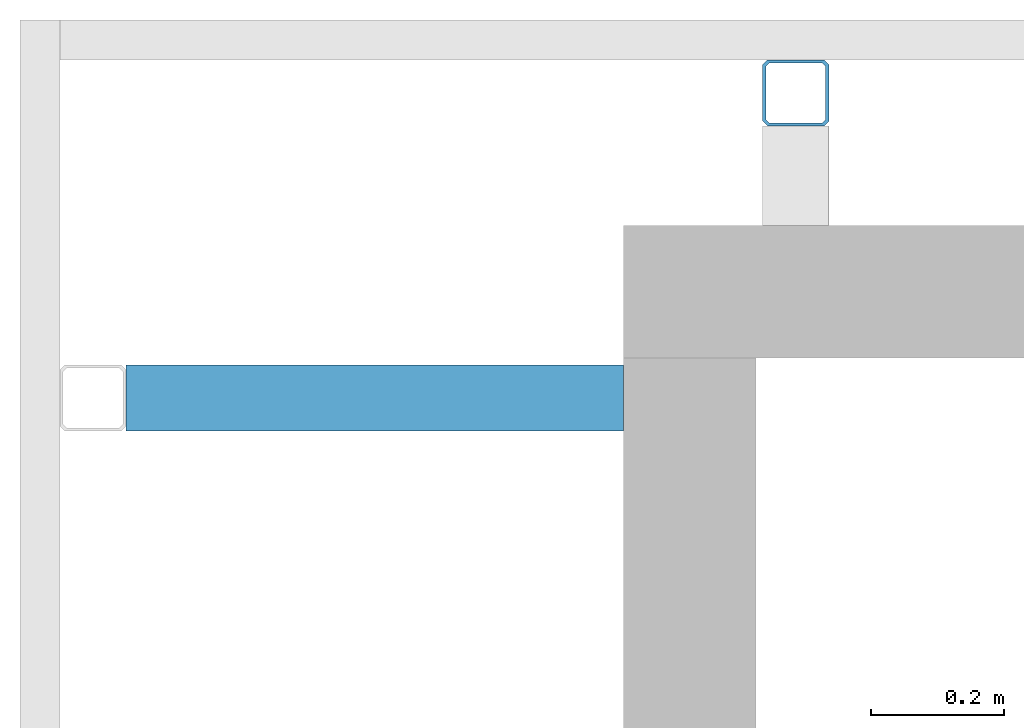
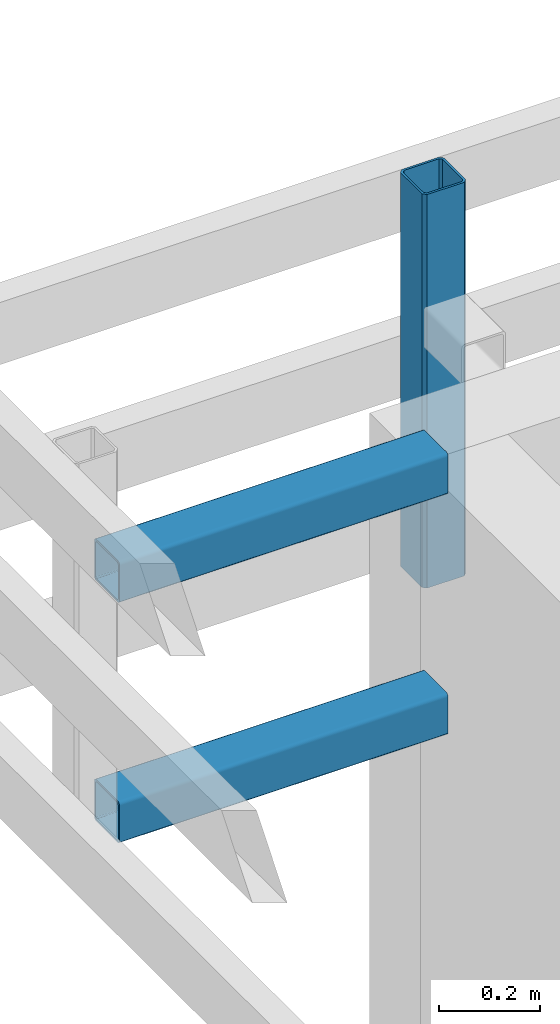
# One storey, part 14 of 42: 3 members.
"""IFC4 building model written with IfcOpenShell, lengths in metres."""

from ifc_helpers import new_model, entity, si_unit, converted_unit, derived_unit, frame, origin, place, context, subcontext, project, spatial, faceted_brep, material, element, save


model = new_model("IFC4")

# Units and contexts
model_context = context("Model", 3, precision=1e-05, world=origin())
plan_context = context("Plan", 2, precision=1e-05, world=origin())
body_context = subcontext(model_context, "Body", "Model", "MODEL_VIEW")
ifc_project = project(units=[si_unit("LENGTHUNIT", "METRE"), si_unit("AREAUNIT", "SQUARE_METRE"), si_unit("VOLUMEUNIT", "CUBIC_METRE"), si_unit("MASSUNIT", "GRAM", prefix="KILO"), converted_unit("PLANEANGLEUNIT", "DEGREE", entity("IfcPlaneAngleMeasure", 0.0174532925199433), si_unit("PLANEANGLEUNIT", "RADIAN"), dimensions=[0, 0, 0, 0, 0, 0, 0]), derived_unit("THERMALTRANSMITTANCEUNIT", [(si_unit("POWERUNIT", "WATT"), 1), (si_unit("THERMODYNAMICTEMPERATUREUNIT", "KELVIN"), -1), (si_unit("LENGTHUNIT", "METRE"), -2)]), derived_unit("VOLUMETRICFLOWRATEUNIT", [(si_unit("LENGTHUNIT", "METRE"), 3), (converted_unit("TIMEUNIT", "hour", entity("IfcTimeMeasure", 3600.0), si_unit("TIMEUNIT", "SECOND"), dimensions=[0, 0, 1, 0, 0, 0, 0]), -1), (si_unit("LENGTHUNIT", "METRE"), -1)])], contexts=[model_context, plan_context])

# Site, building, storey
site_placement = place(None, origin())
site = spatial("IfcSite", under=ifc_project, at=site_placement, Name="Site", CompositionType="ELEMENT")
building_placement = place(site_placement, origin())
building = spatial("IfcBuilding", under=site, at=building_placement, Name="Admin", CompositionType="ELEMENT")
storey_placement = place(building_placement, frame((0.0, 0.0, 6.61)))
storey = spatial("IfcBuildingStorey", under=building, at=storey_placement, Name="02-Etage2", CompositionType="ELEMENT", Elevation=6.61)

# Members
ifc_material_1 = material(Name="S235")
member_1_placement = place(storey_placement, frame((24.2098005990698, 22.4994493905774, 2.28)))
element("IfcMember", 1, at=member_1_placement, inside=storey, material=ifc_material_1, Name="Bandeau R+2", context=body_context, shape_type="Brep", body=[
    faceted_brep([(0.09, 0.005, 0.0), (0.09, 0.005, 0.95), (0.01, 0.005, 0.95), (0.01, 0.005, 0.0), (0.095, 0.01, 0.0), (0.095, 0.01, 0.95), (0.095, 0.09, 0.0), (0.095, 0.09, 0.95), (0.09, 0.095, 0.0), (0.09, 0.095, 0.95), (0.01, 0.095, 0.0), (0.01, 0.095, 0.95), (0.005, 0.09, 0.0), (0.005, 0.09, 0.95), (0.005, 0.01, 0.0), (0.005, 0.01, 0.95), (0.0, 0.0075, 0.0), (0.0, 0.0075, 0.95), (0.0075, 0.0, 0.95), (0.0075, 0.0, 0.0), (0.0, 0.0925, 0.0), (0.0, 0.0925, 0.95), (0.0075, 0.1, 0.0), (0.0075, 0.1, 0.95), (0.0925, 0.1, 0.0), (0.0925, 0.1, 0.95), (0.1, 0.0925, 0.0), (0.1, 0.0925, 0.95), (0.1, 0.0075, 0.0), (0.1, 0.0075, 0.95), (0.0925, 0.0, 0.0), (0.0925, 0.0, 0.95)], [[[0, 1, 2, 3]], [[4, 5, 1, 0]], [[6, 7, 5, 4]], [[8, 9, 7, 6]], [[10, 11, 9, 8]], [[12, 13, 11, 10]], [[14, 15, 13, 12]], [[3, 2, 15, 14]], [[16, 17, 18, 19]], [[20, 21, 17, 16]], [[22, 23, 21, 20]], [[24, 25, 23, 22]], [[26, 27, 25, 24]], [[28, 29, 27, 26]], [[30, 31, 29, 28]], [[19, 18, 31, 30]], [[18, 17, 21, 23, 25, 27, 29, 31], [2, 1, 5, 7, 9, 11, 13, 15]], [[19, 30, 28, 26, 24, 22, 20, 16], [3, 14, 12, 10, 8, 6, 4, 0]]], orient=[[False], [False], [False], [False], [False], [False], [False], [False], [False], [False], [False], [False], [False], [False], [False], [False], [False, False], [False, False]]),
])
ifc_material_2 = material(Name="S235")
member_2_placement = place(storey_placement, frame((23.2498003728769, 22.0394493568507, 2.86)))
element("IfcMember", 2, at=member_2_placement, inside=storey, material=ifc_material_2, Name="Bandeau R+2", context=body_context, shape_type="Brep", body=[
    faceted_brep([(4.27205304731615e-09, 0.005, 0.09), (4.27205304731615e-09, 0.005, 0.01), (0.750000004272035, 0.00500003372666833, 0.01), (0.750000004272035, 0.00500003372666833, 0.09), (4.26863698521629e-09, 0.00507596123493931, 0.0908682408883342), (0.750000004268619, 0.00507599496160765, 0.0908682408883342), (4.25849430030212e-09, 0.00530153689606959, 0.0917101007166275), (0.750000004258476, 0.00530157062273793, 0.0917101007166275), (4.24193058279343e-09, 0.00566987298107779, 0.0925), (0.750000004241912, 0.00566990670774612, 0.0925), (4.21945151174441e-09, 0.0061697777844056, 0.0932139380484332), (0.750000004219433, 0.00616981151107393, 0.0932139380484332), (4.19173738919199e-09, 0.00678606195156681, 0.0938302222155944), (0.750000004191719, 0.00678609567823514, 0.0938302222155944), (4.1596322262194e-09, 0.0075, 0.0943301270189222), (0.750000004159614, 0.00750003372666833, 0.0943301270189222), (4.12411100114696e-09, 0.00828989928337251, 0.0946984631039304), (0.750000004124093, 0.00828993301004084, 0.0946984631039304), (4.08625419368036e-09, 0.009131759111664, 0.0949240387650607), (0.750000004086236, 0.00913179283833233, 0.0949240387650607), (4.04720776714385e-09, 0.01, 0.095), (0.75000000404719, 0.0100000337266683, 0.095), (4.49697836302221e-10, 0.09, 0.095), (0.75000000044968, 0.0900000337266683, 0.095), (4.10655047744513e-10, 0.090868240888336, 0.0949240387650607), (0.750000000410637, 0.0908682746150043, 0.0949240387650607), (3.72798240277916e-10, 0.0917101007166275, 0.0946984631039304), (0.75000000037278, 0.0917101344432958, 0.0946984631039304), (3.37277015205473e-10, 0.0925, 0.0943301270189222), (0.750000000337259, 0.0925000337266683, 0.0943301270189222), (3.05171852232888e-10, 0.0932139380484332, 0.0938302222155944), (0.750000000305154, 0.0932139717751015, 0.0938302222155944), (2.77457729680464e-10, 0.0938302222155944, 0.0932139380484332), (0.75000000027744, 0.0938302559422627, 0.0932139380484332), (2.54978658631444e-10, 0.0943301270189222, 0.0925), (0.75000000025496, 0.0943301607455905, 0.0925), (2.38414941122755e-10, 0.0946984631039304, 0.0917101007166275), (0.750000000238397, 0.0946984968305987, 0.0917101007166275), (2.28268618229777e-10, 0.0949240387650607, 0.0908682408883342), (0.75000000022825, 0.094924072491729, 0.0908682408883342), (2.24852556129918e-10, 0.095, 0.09), (0.750000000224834, 0.0950000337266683, 0.09), (2.24852556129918e-10, 0.095, 0.01), (0.750000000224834, 0.0950000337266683, 0.01), (2.28268618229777e-10, 0.0949240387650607, 0.00913175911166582), (0.75000000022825, 0.094924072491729, 0.00913175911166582), (2.38414941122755e-10, 0.0946984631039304, 0.00828989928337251), (0.750000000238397, 0.0946984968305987, 0.00828989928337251), (2.54978658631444e-10, 0.0943301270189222, 0.0075), (0.75000000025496, 0.0943301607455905, 0.0075), (2.77457729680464e-10, 0.0938302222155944, 0.00678606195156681), (0.75000000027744, 0.0938302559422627, 0.00678606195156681), (3.05171852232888e-10, 0.0932139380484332, 0.0061697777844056), (0.750000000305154, 0.0932139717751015, 0.0061697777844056), (3.37277015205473e-10, 0.0925, 0.00566987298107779), (0.750000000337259, 0.0925000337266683, 0.00566987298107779), (3.72798240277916e-10, 0.0917101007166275, 0.00530153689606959), (0.75000000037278, 0.0917101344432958, 0.00530153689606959), (4.10655047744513e-10, 0.090868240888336, 0.00507596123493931), (0.750000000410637, 0.0908682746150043, 0.00507596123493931), (4.49697836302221e-10, 0.09, 0.005), (0.75000000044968, 0.0900000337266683, 0.005), (4.04720776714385e-09, 0.01, 0.005), (0.75000000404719, 0.0100000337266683, 0.005), (4.08625419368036e-09, 0.009131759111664, 0.00507596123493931), (0.750000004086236, 0.00913179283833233, 0.00507596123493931), (4.12411100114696e-09, 0.00828989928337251, 0.00530153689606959), (0.750000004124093, 0.00828993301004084, 0.00530153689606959), (4.1596322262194e-09, 0.0075, 0.00566987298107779), (0.750000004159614, 0.00750003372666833, 0.00566987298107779), (4.19173738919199e-09, 0.00678606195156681, 0.0061697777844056), (0.750000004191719, 0.00678609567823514, 0.0061697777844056), (4.21945151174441e-09, 0.0061697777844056, 0.00678606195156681), (0.750000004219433, 0.00616981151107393, 0.00678606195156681), (4.24193058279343e-09, 0.00566987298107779, 0.0075), (0.750000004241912, 0.00566990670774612, 0.0075), (4.25849430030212e-09, 0.00530153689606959, 0.00828989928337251), (0.750000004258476, 0.00530157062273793, 0.00828989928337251), (4.26863698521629e-09, 0.00507596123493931, 0.00913175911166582), (0.750000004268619, 0.00507599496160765, 0.00913175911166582), (3.37277015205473e-10, 0.0925, 0.1), (2.78709194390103e-10, 0.0938023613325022, 0.099886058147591), (0.750000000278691, 0.0938023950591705, 0.099886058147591), (0.750000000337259, 0.0925000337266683, 0.1), (4.1596322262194e-09, 0.0075, 0.1), (0.750000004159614, 0.00750003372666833, 0.1), (4.21819640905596e-09, 0.00619763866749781, 0.099886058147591), (0.750000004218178, 0.00619767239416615, 0.099886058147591), (4.27498525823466e-09, 0.00493484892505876, 0.0995476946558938), (0.750000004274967, 0.00493488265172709, 0.0995476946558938), (4.32826345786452e-09, 0.00375, 0.0989951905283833), (0.750000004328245, 0.00375003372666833, 0.0989951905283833), (4.3764230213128e-09, 0.00267909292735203, 0.0982453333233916), (0.750000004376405, 0.00267912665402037, 0.0982453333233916), (4.41799420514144e-09, 0.00175466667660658, 0.0973209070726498), (0.750000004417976, 0.00175470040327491, 0.0973209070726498), (4.45171463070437e-09, 0.0010048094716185, 0.09625), (0.750000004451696, 0.00100484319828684, 0.09625), (4.476558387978e-09, 0.000452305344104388, 0.0950651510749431), (0.75000000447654, 0.000452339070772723, 0.0950651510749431), (4.49177605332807e-09, 0.000113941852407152, 0.0938023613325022), (0.750000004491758, 0.000113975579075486, 0.0938023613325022), (4.49689832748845e-09, 0.0, 0.0925), (0.750000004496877, 3.37266683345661e-08, 0.0925), (4.49177605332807e-09, 0.000113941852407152, 0.00619763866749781), (4.49689832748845e-09, 0.0, 0.0075), (0.750000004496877, 3.37266683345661e-08, 0.0075), (0.750000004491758, 0.000113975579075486, 0.00619763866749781), (4.476558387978e-09, 0.000452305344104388, 0.00493484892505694), (0.75000000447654, 0.000452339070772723, 0.00493484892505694), (4.45171463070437e-09, 0.0010048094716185, 0.00375), (0.750000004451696, 0.00100484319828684, 0.00375), (4.41799420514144e-09, 0.00175466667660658, 0.00267909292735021), (0.750000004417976, 0.00175470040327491, 0.00267909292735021), (4.3764230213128e-09, 0.00267909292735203, 0.00175466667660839), (0.750000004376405, 0.00267912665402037, 0.00175466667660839), (4.32826345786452e-09, 0.00375, 0.00100480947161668), (0.750000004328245, 0.00375003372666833, 0.00100480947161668), (4.27498525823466e-09, 0.00493484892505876, 0.000452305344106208), (0.750000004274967, 0.00493488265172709, 0.000452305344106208), (4.21819640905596e-09, 0.00619763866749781, 0.000113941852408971), (0.750000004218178, 0.00619767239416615, 0.000113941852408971), (4.1596322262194e-09, 0.0075, 0.0), (0.750000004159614, 0.00750003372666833, 0.0), (3.37277015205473e-10, 0.0925, 0.0), (0.750000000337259, 0.0925000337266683, 0.0), (2.78709194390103e-10, 0.0938023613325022, 0.000113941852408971), (0.750000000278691, 0.0938023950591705, 0.000113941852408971), (2.21923983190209e-10, 0.0950651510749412, 0.000452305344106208), (0.750000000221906, 0.0950651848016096, 0.000452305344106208), (1.68642145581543e-10, 0.09625, 0.00100480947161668), (0.750000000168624, 0.0962500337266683, 0.00100480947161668), (1.2048622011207e-10, 0.097320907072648, 0.00175466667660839), (0.750000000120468, 0.0973209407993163, 0.00175466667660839), (7.89150362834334e-11, 0.0982453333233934, 0.00267909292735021), (0.750000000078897, 0.0982453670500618, 0.00267909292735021), (4.51946107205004e-11, 0.0989951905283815, 0.00375), (0.750000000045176, 0.0989952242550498, 0.00375), (2.0347215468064e-11, 0.0995476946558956, 0.00493484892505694), (0.750000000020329, 0.099547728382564, 0.00493484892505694), (5.13318809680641e-12, 0.0998860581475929, 0.00619763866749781), (0.750000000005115, 0.0998860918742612, 0.00619763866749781), (0.0, 0.100000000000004, 0.0075), (0.749999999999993, 0.100000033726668, 0.0075), (5.13318809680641e-12, 0.0998860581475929, 0.0938023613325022), (-3.63797880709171e-15, 0.1, 0.0925), (0.749999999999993, 0.100000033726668, 0.0925), (0.750000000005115, 0.0998860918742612, 0.0938023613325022), (2.0347215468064e-11, 0.0995476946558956, 0.0950651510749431), (0.750000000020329, 0.099547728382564, 0.0950651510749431), (4.51946107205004e-11, 0.0989951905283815, 0.09625), (0.750000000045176, 0.0989952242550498, 0.09625), (7.89150362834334e-11, 0.0982453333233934, 0.0973209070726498), (0.750000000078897, 0.0982453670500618, 0.0973209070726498), (1.2048622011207e-10, 0.097320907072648, 0.0982453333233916), (0.750000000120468, 0.0973209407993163, 0.0982453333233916), (1.68642145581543e-10, 0.09625, 0.0989951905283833), (0.750000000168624, 0.0962500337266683, 0.0989951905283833), (2.21923983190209e-10, 0.0950651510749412, 0.0995476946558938), (0.750000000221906, 0.0950651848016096, 0.0995476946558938)], [[[0, 1, 2, 3]], [[4, 0, 3, 5]], [[6, 4, 5, 7]], [[8, 6, 7, 9]], [[10, 8, 9, 11]], [[12, 10, 11, 13]], [[14, 12, 13, 15]], [[16, 14, 15, 17]], [[18, 16, 17, 19]], [[20, 18, 19, 21]], [[22, 20, 21, 23]], [[24, 22, 23, 25]], [[26, 24, 25, 27]], [[28, 26, 27, 29]], [[30, 28, 29, 31]], [[32, 30, 31, 33]], [[34, 32, 33, 35]], [[36, 34, 35, 37]], [[38, 36, 37, 39]], [[40, 38, 39, 41]], [[42, 40, 41, 43]], [[44, 42, 43, 45]], [[46, 44, 45, 47]], [[48, 46, 47, 49]], [[50, 48, 49, 51]], [[52, 50, 51, 53]], [[54, 52, 53, 55]], [[56, 54, 55, 57]], [[58, 56, 57, 59]], [[60, 58, 59, 61]], [[62, 60, 61, 63]], [[64, 62, 63, 65]], [[66, 64, 65, 67]], [[68, 66, 67, 69]], [[70, 68, 69, 71]], [[72, 70, 71, 73]], [[74, 72, 73, 75]], [[76, 74, 75, 77]], [[78, 76, 77, 79]], [[1, 78, 79, 2]], [[80, 81, 82, 83]], [[84, 80, 83, 85]], [[86, 84, 85, 87]], [[88, 86, 87, 89]], [[90, 88, 89, 91]], [[92, 90, 91, 93]], [[94, 92, 93, 95]], [[96, 94, 95, 97]], [[98, 96, 97, 99]], [[100, 98, 99, 101]], [[102, 100, 101, 103]], [[104, 105, 106, 107]], [[108, 104, 107, 109]], [[110, 108, 109, 111]], [[112, 110, 111, 113]], [[114, 112, 113, 115]], [[116, 114, 115, 117]], [[118, 116, 117, 119]], [[120, 118, 119, 121]], [[122, 120, 121, 123]], [[124, 122, 123, 125]], [[126, 124, 125, 127]], [[128, 126, 127, 129]], [[130, 128, 129, 131]], [[132, 130, 131, 133]], [[134, 132, 133, 135]], [[136, 134, 135, 137]], [[138, 136, 137, 139]], [[140, 138, 139, 141]], [[142, 140, 141, 143]], [[144, 145, 146, 147]], [[148, 144, 147, 149]], [[150, 148, 149, 151]], [[152, 150, 151, 153]], [[154, 152, 153, 155]], [[156, 154, 155, 157]], [[158, 156, 157, 159]], [[81, 158, 159, 82]], [[146, 143, 141, 139, 137, 135, 133, 131, 129, 127, 125, 123, 121, 119, 117, 115, 113, 111, 109, 107, 106, 103, 101, 99, 97, 95, 93, 91, 89, 87, 85, 83, 82, 159, 157, 155, 153, 151, 149, 147], [2, 79, 77, 75, 73, 71, 69, 67, 65, 63, 61, 59, 57, 55, 53, 51, 49, 47, 45, 43, 41, 39, 37, 35, 33, 31, 29, 27, 25, 23, 21, 19, 17, 15, 13, 11, 9, 7, 5, 3]], [[103, 106, 105, 102]], [[102, 105, 104, 108, 110, 112, 114, 116, 118, 120, 122, 124, 126, 128, 130, 132, 134, 136, 138, 140, 142, 145, 144, 148, 150, 152, 154, 156, 158, 81, 80, 84, 86, 88, 90, 92, 94, 96, 98, 100], [1, 0, 4, 6, 8, 10, 12, 14, 16, 18, 20, 22, 24, 26, 28, 30, 32, 34, 36, 38, 40, 42, 44, 46, 48, 50, 52, 54, 56, 58, 60, 62, 64, 66, 68, 70, 72, 74, 76, 78]], [[145, 142, 143, 146]]], orient=[[False], [False], [False], [False], [False], [False], [False], [False], [False], [False], [False], [False], [False], [False], [False], [False], [False], [False], [False], [False], [False], [False], [False], [False], [False], [False], [False], [False], [False], [False], [False], [False], [False], [False], [False], [False], [False], [False], [False], [False], [False], [False], [False], [False], [False], [False], [False], [False], [False], [False], [False], [False], [False], [False], [False], [False], [False], [False], [False], [False], [False], [False], [False], [False], [False], [False], [False], [False], [False], [False], [False], [False], [False], [False], [False], [False], [False], [False], [False, False], [False], [False, False], [False]]),
])
ifc_material_3 = material(Name="S235")
member_3_placement = place(storey_placement, frame((23.2498003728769, 22.0394493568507, 2.28)))
element("IfcMember", 3, at=member_3_placement, inside=storey, material=ifc_material_3, Name="Bandeau R+2", context=body_context, shape_type="Brep", body=[
    faceted_brep([(4.27205304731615e-09, 0.005, 0.09), (4.27205304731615e-09, 0.005, 0.01), (0.75000000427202, 0.00500003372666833, 0.01), (0.75000000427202, 0.00500003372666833, 0.09), (4.26863698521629e-09, 0.00507596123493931, 0.0908682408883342), (0.750000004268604, 0.00507599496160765, 0.0908682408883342), (4.25849430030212e-09, 0.00530153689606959, 0.0917101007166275), (0.750000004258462, 0.00530157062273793, 0.0917101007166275), (4.24193058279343e-09, 0.00566987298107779, 0.0925), (0.750000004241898, 0.00566990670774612, 0.0925), (4.21945151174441e-09, 0.0061697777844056, 0.0932139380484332), (0.750000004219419, 0.00616981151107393, 0.0932139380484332), (4.19173738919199e-09, 0.00678606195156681, 0.0938302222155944), (0.750000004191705, 0.00678609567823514, 0.0938302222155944), (4.1596322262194e-09, 0.0075, 0.0943301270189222), (0.7500000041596, 0.00750003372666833, 0.0943301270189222), (4.12411100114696e-09, 0.00828989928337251, 0.0946984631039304), (0.750000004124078, 0.00828993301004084, 0.0946984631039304), (4.08625419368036e-09, 0.009131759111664, 0.0949240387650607), (0.750000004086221, 0.00913179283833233, 0.0949240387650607), (4.04720776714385e-09, 0.01, 0.095), (0.750000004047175, 0.0100000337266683, 0.095), (4.49697836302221e-10, 0.09, 0.095), (0.750000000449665, 0.0900000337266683, 0.095), (4.10655047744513e-10, 0.090868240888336, 0.0949240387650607), (0.750000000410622, 0.0908682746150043, 0.0949240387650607), (3.72798240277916e-10, 0.0917101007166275, 0.0946984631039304), (0.750000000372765, 0.0917101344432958, 0.0946984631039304), (3.37277015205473e-10, 0.0925, 0.0943301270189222), (0.750000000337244, 0.0925000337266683, 0.0943301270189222), (3.05171852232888e-10, 0.0932139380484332, 0.0938302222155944), (0.750000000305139, 0.0932139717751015, 0.0938302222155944), (2.77457729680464e-10, 0.0938302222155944, 0.0932139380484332), (0.750000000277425, 0.0938302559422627, 0.0932139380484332), (2.54978658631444e-10, 0.0943301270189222, 0.0925), (0.750000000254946, 0.0943301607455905, 0.0925), (2.38414941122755e-10, 0.0946984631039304, 0.0917101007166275), (0.750000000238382, 0.0946984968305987, 0.0917101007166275), (2.28268618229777e-10, 0.0949240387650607, 0.0908682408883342), (0.750000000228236, 0.094924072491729, 0.0908682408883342), (2.24852556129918e-10, 0.095, 0.09), (0.75000000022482, 0.0950000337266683, 0.09), (2.24852556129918e-10, 0.095, 0.01), (0.75000000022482, 0.0950000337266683, 0.01), (2.28268618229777e-10, 0.0949240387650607, 0.00913175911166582), (0.750000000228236, 0.094924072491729, 0.00913175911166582), (2.38414941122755e-10, 0.0946984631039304, 0.00828989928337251), (0.750000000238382, 0.0946984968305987, 0.00828989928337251), (2.54978658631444e-10, 0.0943301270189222, 0.0075), (0.750000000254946, 0.0943301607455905, 0.0075), (2.77457729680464e-10, 0.0938302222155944, 0.00678606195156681), (0.750000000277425, 0.0938302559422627, 0.00678606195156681), (3.05171852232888e-10, 0.0932139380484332, 0.0061697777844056), (0.750000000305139, 0.0932139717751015, 0.0061697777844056), (3.37277015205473e-10, 0.0925, 0.00566987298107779), (0.750000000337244, 0.0925000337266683, 0.00566987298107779), (3.72798240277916e-10, 0.0917101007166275, 0.00530153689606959), (0.750000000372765, 0.0917101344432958, 0.00530153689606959), (4.10655047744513e-10, 0.090868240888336, 0.00507596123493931), (0.750000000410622, 0.0908682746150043, 0.00507596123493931), (4.49697836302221e-10, 0.09, 0.005), (0.750000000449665, 0.0900000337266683, 0.005), (4.04720776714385e-09, 0.01, 0.005), (0.750000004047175, 0.0100000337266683, 0.005), (4.08625419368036e-09, 0.009131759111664, 0.00507596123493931), (0.750000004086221, 0.00913179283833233, 0.00507596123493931), (4.12411100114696e-09, 0.00828989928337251, 0.00530153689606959), (0.750000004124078, 0.00828993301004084, 0.00530153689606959), (4.1596322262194e-09, 0.0075, 0.00566987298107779), (0.7500000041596, 0.00750003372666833, 0.00566987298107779), (4.19173738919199e-09, 0.00678606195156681, 0.0061697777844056), (0.750000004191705, 0.00678609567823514, 0.0061697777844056), (4.21945151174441e-09, 0.0061697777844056, 0.00678606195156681), (0.750000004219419, 0.00616981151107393, 0.00678606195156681), (4.24193058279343e-09, 0.00566987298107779, 0.0075), (0.750000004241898, 0.00566990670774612, 0.0075), (4.25849430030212e-09, 0.00530153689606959, 0.00828989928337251), (0.750000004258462, 0.00530157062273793, 0.00828989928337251), (4.26863698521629e-09, 0.00507596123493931, 0.00913175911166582), (0.750000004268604, 0.00507599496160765, 0.00913175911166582), (3.37277015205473e-10, 0.0925, 0.1), (2.78709194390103e-10, 0.0938023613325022, 0.099886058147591), (0.750000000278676, 0.0938023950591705, 0.099886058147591), (0.750000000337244, 0.0925000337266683, 0.1), (4.1596322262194e-09, 0.0075, 0.1), (0.7500000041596, 0.00750003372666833, 0.1), (4.21819640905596e-09, 0.00619763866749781, 0.099886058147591), (0.750000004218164, 0.00619767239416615, 0.099886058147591), (4.27498525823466e-09, 0.00493484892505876, 0.0995476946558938), (0.750000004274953, 0.00493488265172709, 0.0995476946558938), (4.32826345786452e-09, 0.00375, 0.0989951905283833), (0.750000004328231, 0.00375003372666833, 0.0989951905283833), (4.3764230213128e-09, 0.00267909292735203, 0.0982453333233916), (0.75000000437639, 0.00267912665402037, 0.0982453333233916), (4.41799420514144e-09, 0.00175466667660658, 0.0973209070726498), (0.750000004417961, 0.00175470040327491, 0.0973209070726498), (4.45171463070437e-09, 0.0010048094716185, 0.09625), (0.750000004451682, 0.00100484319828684, 0.09625), (4.476558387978e-09, 0.000452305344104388, 0.0950651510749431), (0.750000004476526, 0.000452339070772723, 0.0950651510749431), (4.49177605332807e-09, 0.000113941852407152, 0.0938023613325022), (0.750000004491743, 0.000113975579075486, 0.0938023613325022), (4.49689832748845e-09, 0.0, 0.0925), (0.750000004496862, 3.37266683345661e-08, 0.0925), (4.49177605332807e-09, 0.000113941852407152, 0.00619763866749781), (4.49689832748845e-09, 0.0, 0.0075), (0.750000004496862, 3.37266683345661e-08, 0.0075), (0.750000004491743, 0.000113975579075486, 0.00619763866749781), (4.476558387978e-09, 0.000452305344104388, 0.00493484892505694), (0.750000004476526, 0.000452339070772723, 0.00493484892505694), (4.45171463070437e-09, 0.0010048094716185, 0.00375), (0.750000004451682, 0.00100484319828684, 0.00375), (4.41799420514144e-09, 0.00175466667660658, 0.00267909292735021), (0.750000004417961, 0.00175470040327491, 0.00267909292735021), (4.3764230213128e-09, 0.00267909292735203, 0.00175466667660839), (0.75000000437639, 0.00267912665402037, 0.00175466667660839), (4.32826345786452e-09, 0.00375, 0.00100480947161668), (0.750000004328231, 0.00375003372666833, 0.00100480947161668), (4.27498525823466e-09, 0.00493484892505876, 0.000452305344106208), (0.750000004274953, 0.00493488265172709, 0.000452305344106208), (4.21819640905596e-09, 0.00619763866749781, 0.000113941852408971), (0.750000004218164, 0.00619767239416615, 0.000113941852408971), (4.1596322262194e-09, 0.0075, 0.0), (0.7500000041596, 0.00750003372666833, 0.0), (3.37277015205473e-10, 0.0925, 0.0), (0.750000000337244, 0.0925000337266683, 0.0), (2.78709194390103e-10, 0.0938023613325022, 0.000113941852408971), (0.750000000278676, 0.0938023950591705, 0.000113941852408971), (2.21923983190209e-10, 0.0950651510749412, 0.000452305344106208), (0.750000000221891, 0.0950651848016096, 0.000452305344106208), (1.68642145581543e-10, 0.09625, 0.00100480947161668), (0.750000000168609, 0.0962500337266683, 0.00100480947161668), (1.2048622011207e-10, 0.097320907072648, 0.00175466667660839), (0.750000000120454, 0.0973209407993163, 0.00175466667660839), (7.89150362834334e-11, 0.0982453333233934, 0.00267909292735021), (0.750000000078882, 0.0982453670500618, 0.00267909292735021), (4.51946107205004e-11, 0.0989951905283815, 0.00375), (0.750000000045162, 0.0989952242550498, 0.00375), (2.0347215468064e-11, 0.0995476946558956, 0.00493484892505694), (0.750000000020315, 0.099547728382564, 0.00493484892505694), (5.13318809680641e-12, 0.0998860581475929, 0.00619763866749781), (0.7500000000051, 0.0998860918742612, 0.00619763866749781), (0.0, 0.100000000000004, 0.0075), (0.749999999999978, 0.100000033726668, 0.0075), (5.13318809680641e-12, 0.0998860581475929, 0.0938023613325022), (0.0, 0.1, 0.0925), (0.749999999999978, 0.100000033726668, 0.0925), (0.7500000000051, 0.0998860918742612, 0.0938023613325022), (2.0347215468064e-11, 0.0995476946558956, 0.0950651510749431), (0.750000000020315, 0.099547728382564, 0.0950651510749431), (4.51946107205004e-11, 0.0989951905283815, 0.09625), (0.750000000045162, 0.0989952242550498, 0.09625), (7.89150362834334e-11, 0.0982453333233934, 0.0973209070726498), (0.750000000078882, 0.0982453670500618, 0.0973209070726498), (1.2048622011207e-10, 0.097320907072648, 0.0982453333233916), (0.750000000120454, 0.0973209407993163, 0.0982453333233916), (1.68642145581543e-10, 0.09625, 0.0989951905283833), (0.750000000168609, 0.0962500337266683, 0.0989951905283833), (2.21923983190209e-10, 0.0950651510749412, 0.0995476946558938), (0.750000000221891, 0.0950651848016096, 0.0995476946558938)], [[[0, 1, 2, 3]], [[4, 0, 3, 5]], [[6, 4, 5, 7]], [[8, 6, 7, 9]], [[10, 8, 9, 11]], [[12, 10, 11, 13]], [[14, 12, 13, 15]], [[16, 14, 15, 17]], [[18, 16, 17, 19]], [[20, 18, 19, 21]], [[22, 20, 21, 23]], [[24, 22, 23, 25]], [[26, 24, 25, 27]], [[28, 26, 27, 29]], [[30, 28, 29, 31]], [[32, 30, 31, 33]], [[34, 32, 33, 35]], [[36, 34, 35, 37]], [[38, 36, 37, 39]], [[40, 38, 39, 41]], [[42, 40, 41, 43]], [[44, 42, 43, 45]], [[46, 44, 45, 47]], [[48, 46, 47, 49]], [[50, 48, 49, 51]], [[52, 50, 51, 53]], [[54, 52, 53, 55]], [[56, 54, 55, 57]], [[58, 56, 57, 59]], [[60, 58, 59, 61]], [[62, 60, 61, 63]], [[64, 62, 63, 65]], [[66, 64, 65, 67]], [[68, 66, 67, 69]], [[70, 68, 69, 71]], [[72, 70, 71, 73]], [[74, 72, 73, 75]], [[76, 74, 75, 77]], [[78, 76, 77, 79]], [[1, 78, 79, 2]], [[80, 81, 82, 83]], [[84, 80, 83, 85]], [[86, 84, 85, 87]], [[88, 86, 87, 89]], [[90, 88, 89, 91]], [[92, 90, 91, 93]], [[94, 92, 93, 95]], [[96, 94, 95, 97]], [[98, 96, 97, 99]], [[100, 98, 99, 101]], [[102, 100, 101, 103]], [[104, 105, 106, 107]], [[108, 104, 107, 109]], [[110, 108, 109, 111]], [[112, 110, 111, 113]], [[114, 112, 113, 115]], [[116, 114, 115, 117]], [[118, 116, 117, 119]], [[120, 118, 119, 121]], [[122, 120, 121, 123]], [[124, 122, 123, 125]], [[126, 124, 125, 127]], [[128, 126, 127, 129]], [[130, 128, 129, 131]], [[132, 130, 131, 133]], [[134, 132, 133, 135]], [[136, 134, 135, 137]], [[138, 136, 137, 139]], [[140, 138, 139, 141]], [[142, 140, 141, 143]], [[144, 145, 146, 147]], [[148, 144, 147, 149]], [[150, 148, 149, 151]], [[152, 150, 151, 153]], [[154, 152, 153, 155]], [[156, 154, 155, 157]], [[158, 156, 157, 159]], [[81, 158, 159, 82]], [[146, 143, 141, 139, 137, 135, 133, 131, 129, 127, 125, 123, 121, 119, 117, 115, 113, 111, 109, 107, 106, 103, 101, 99, 97, 95, 93, 91, 89, 87, 85, 83, 82, 159, 157, 155, 153, 151, 149, 147], [2, 79, 77, 75, 73, 71, 69, 67, 65, 63, 61, 59, 57, 55, 53, 51, 49, 47, 45, 43, 41, 39, 37, 35, 33, 31, 29, 27, 25, 23, 21, 19, 17, 15, 13, 11, 9, 7, 5, 3]], [[103, 106, 105, 102]], [[102, 105, 104, 108, 110, 112, 114, 116, 118, 120, 122, 124, 126, 128, 130, 132, 134, 136, 138, 140, 142, 145, 144, 148, 150, 152, 154, 156, 158, 81, 80, 84, 86, 88, 90, 92, 94, 96, 98, 100], [1, 0, 4, 6, 8, 10, 12, 14, 16, 18, 20, 22, 24, 26, 28, 30, 32, 34, 36, 38, 40, 42, 44, 46, 48, 50, 52, 54, 56, 58, 60, 62, 64, 66, 68, 70, 72, 74, 76, 78]], [[145, 142, 143, 146]]], orient=[[False], [False], [False], [False], [False], [False], [False], [False], [False], [False], [False], [False], [False], [False], [False], [False], [False], [False], [False], [False], [False], [False], [False], [False], [False], [False], [False], [False], [False], [False], [False], [False], [False], [False], [False], [False], [False], [False], [False], [False], [False], [False], [False], [False], [False], [False], [False], [False], [False], [False], [False], [False], [False], [False], [False], [False], [False], [False], [False], [False], [False], [False], [False], [False], [False], [False], [False], [False], [False], [False], [False], [False], [False], [False], [False], [False], [False], [False], [False, False], [False], [False, False], [False]]),
])

save(model, "model.ifc")
